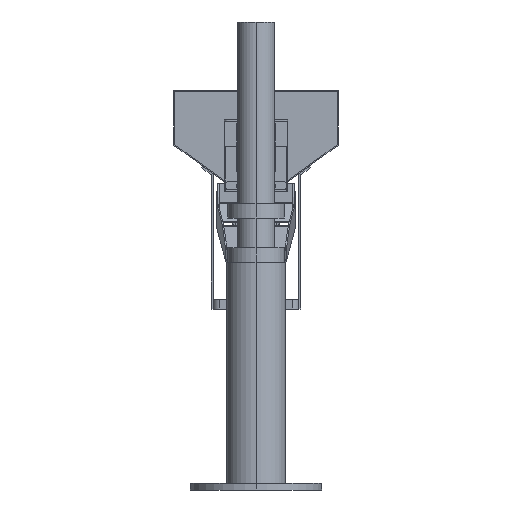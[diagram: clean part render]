
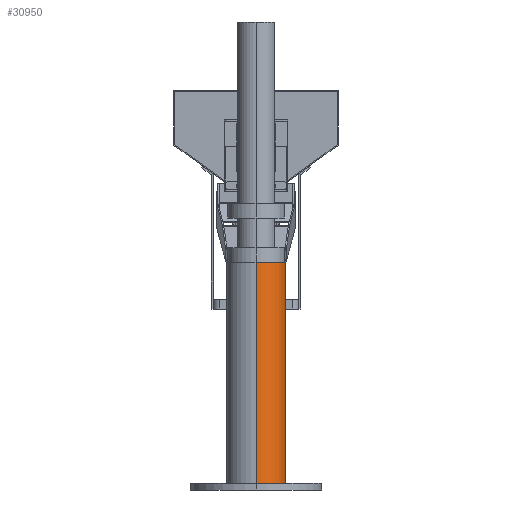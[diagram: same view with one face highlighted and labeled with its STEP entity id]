
A CAD part, left-side view. The second image highlights one B-rep face of the part: STEP entity #30950.
In plain terms, the highlighted cylindrical face has radius 44.75 mm (diameter 89.5 mm), a partial arc.
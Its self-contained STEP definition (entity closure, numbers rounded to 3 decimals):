
#720 = DIRECTION ( 'NONE',  ( -1., 0., 0. ) ) ;
#1022 = CARTESIAN_POINT ( 'NONE',  ( -938.204, 51.391, 503.548 ) ) ;
#2906 = DIRECTION ( 'NONE',  ( -1., 0., 0. ) ) ;
#6193 = VECTOR ( 'NONE', #26070, 1000. ) ;
#9231 = CARTESIAN_POINT ( 'NONE',  ( -938.204, 51.391, 473.548 ) ) ;
#10851 = VERTEX_POINT ( 'NONE', #49639 ) ;
#11129 = EDGE_LOOP ( 'NONE', ( #16363, #37543, #30350, #16120 ) ) ;
#11192 = FACE_OUTER_BOUND ( 'NONE', #11129, .T. ) ;
#14567 = VERTEX_POINT ( 'NONE', #1022 ) ;
#15894 = CARTESIAN_POINT ( 'NONE',  ( -982.954, 51.391, 473.548 ) ) ;
#16120 = ORIENTED_EDGE ( 'NONE', *, *, #30933, .T. ) ;
#16363 = ORIENTED_EDGE ( 'NONE', *, *, #17511, .F. ) ;
#17511 = EDGE_CURVE ( 'NONE', #14567, #10851, #30245, .T. ) ;
#19194 = CYLINDRICAL_SURFACE ( 'NONE', #29955, 44.75 ) ;
#19331 = AXIS2_PLACEMENT_3D ( 'NONE', #45380, #36855, #32181 ) ;
#22935 = VECTOR ( 'NONE', #44203, 1000. ) ;
#25956 = CIRCLE ( 'NONE', #41841, 44.75 ) ;
#26070 = DIRECTION ( 'NONE',  ( 0., 0., -1. ) ) ;
#26820 = LINE ( 'NONE', #52490, #22935 ) ;
#27472 = DIRECTION ( 'NONE',  ( 0., 0., -1. ) ) ;
#29264 = VERTEX_POINT ( 'NONE', #45783 ) ;
#29955 = AXIS2_PLACEMENT_3D ( 'NONE', #15894, #27472, #2906 ) ;
#30245 = LINE ( 'NONE', #9231, #6193 ) ;
#30350 = ORIENTED_EDGE ( 'NONE', *, *, #44914, .T. ) ;
#30933 = EDGE_CURVE ( 'NONE', #29264, #10851, #31696, .T. ) ;
#30950 = ADVANCED_FACE ( 'NONE', ( #11192 ), #19194, .T. ) ;
#31696 = CIRCLE ( 'NONE', #19331, 44.75 ) ;
#32181 = DIRECTION ( 'NONE',  ( -1., 0., 0. ) ) ;
#36855 = DIRECTION ( 'NONE',  ( 0., 0., 1. ) ) ;
#37395 = EDGE_CURVE ( 'NONE', #14567, #40242, #25956, .T. ) ;
#37543 = ORIENTED_EDGE ( 'NONE', *, *, #37395, .T. ) ;
#40242 = VERTEX_POINT ( 'NONE', #50891 ) ;
#41841 = AXIS2_PLACEMENT_3D ( 'NONE', #50670, #43189, #720 ) ;
#43189 = DIRECTION ( 'NONE',  ( 0., 0., -1. ) ) ;
#44203 = DIRECTION ( 'NONE',  ( 0., 0., -1. ) ) ;
#44914 = EDGE_CURVE ( 'NONE', #40242, #29264, #26820, .T. ) ;
#45380 = CARTESIAN_POINT ( 'NONE',  ( -982.954, 51.391, 166.771 ) ) ;
#45783 = CARTESIAN_POINT ( 'NONE',  ( -1027.704, 51.391, 166.771 ) ) ;
#49639 = CARTESIAN_POINT ( 'NONE',  ( -938.204, 51.391, 166.771 ) ) ;
#50670 = CARTESIAN_POINT ( 'NONE',  ( -982.954, 51.391, 503.548 ) ) ;
#50891 = CARTESIAN_POINT ( 'NONE',  ( -1027.704, 51.391, 503.548 ) ) ;
#52490 = CARTESIAN_POINT ( 'NONE',  ( -1027.704, 51.391, 473.548 ) ) ;
